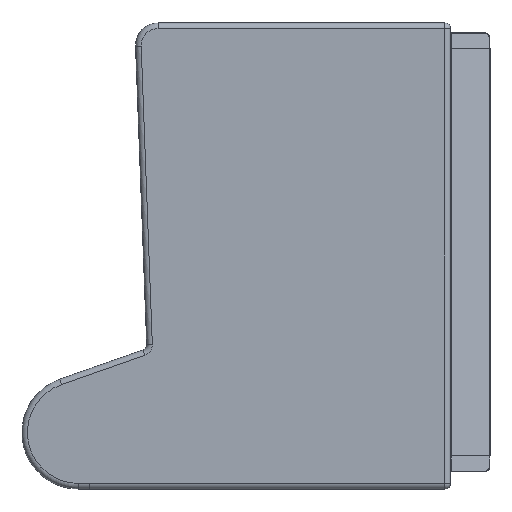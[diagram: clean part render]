
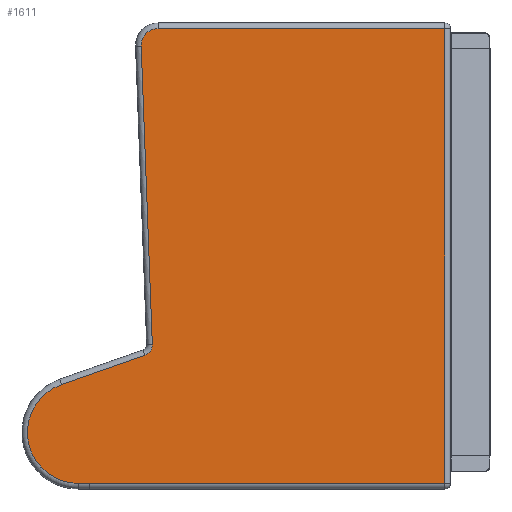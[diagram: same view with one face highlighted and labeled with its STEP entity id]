
A CAD part, left-side view. The second image highlights one B-rep face of the part: STEP entity #1611.
In plain terms, the highlighted planar face has unit normal (-1, 0, 0).
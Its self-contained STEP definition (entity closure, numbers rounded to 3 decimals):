
#43=CIRCLE('',#1761,30.);
#44=CIRCLE('',#1762,20.);
#45=CIRCLE('',#1763,90.152);
#186=FACE_OUTER_BOUND('',#299,.T.);
#299=EDGE_LOOP('',(#1129,#1130,#1131,#1132,#1133,#1134,#1135,#1136,#1137));
#433=LINE('',#2531,#584);
#434=LINE('',#2533,#585);
#435=LINE('',#2535,#586);
#436=LINE('',#2539,#587);
#437=LINE('',#2543,#588);
#438=LINE('',#2546,#589);
#584=VECTOR('',#2000,1000.);
#585=VECTOR('',#2001,1000.);
#586=VECTOR('',#2002,1000.);
#587=VECTOR('',#2005,1000.);
#588=VECTOR('',#2008,1000.);
#589=VECTOR('',#2011,1000.);
#730=VERTEX_POINT('',#2529);
#731=VERTEX_POINT('',#2530);
#732=VERTEX_POINT('',#2532);
#733=VERTEX_POINT('',#2534);
#734=VERTEX_POINT('',#2536);
#735=VERTEX_POINT('',#2538);
#736=VERTEX_POINT('',#2540);
#737=VERTEX_POINT('',#2542);
#738=VERTEX_POINT('',#2544);
#879=EDGE_CURVE('',#730,#731,#433,.T.);
#880=EDGE_CURVE('',#731,#732,#434,.T.);
#881=EDGE_CURVE('',#732,#733,#435,.T.);
#882=EDGE_CURVE('',#733,#734,#43,.T.);
#883=EDGE_CURVE('',#734,#735,#436,.T.);
#884=EDGE_CURVE('',#736,#735,#44,.T.);
#885=EDGE_CURVE('',#736,#737,#437,.T.);
#886=EDGE_CURVE('',#737,#738,#45,.T.);
#887=EDGE_CURVE('',#738,#730,#438,.T.);
#1129=ORIENTED_EDGE('',*,*,#879,.T.);
#1130=ORIENTED_EDGE('',*,*,#880,.T.);
#1131=ORIENTED_EDGE('',*,*,#881,.T.);
#1132=ORIENTED_EDGE('',*,*,#882,.T.);
#1133=ORIENTED_EDGE('',*,*,#883,.T.);
#1134=ORIENTED_EDGE('',*,*,#884,.F.);
#1135=ORIENTED_EDGE('',*,*,#885,.T.);
#1136=ORIENTED_EDGE('',*,*,#886,.T.);
#1137=ORIENTED_EDGE('',*,*,#887,.T.);
#1551=PLANE('',#1760);
#1611=ADVANCED_FACE('',(#186),#1551,.F.);
#1760=AXIS2_PLACEMENT_3D('',#2528,#1998,#1999);
#1761=AXIS2_PLACEMENT_3D('',#2537,#2003,#2004);
#1762=AXIS2_PLACEMENT_3D('',#2541,#2006,#2007);
#1763=AXIS2_PLACEMENT_3D('',#2545,#2009,#2010);
#1998=DIRECTION('center_axis',(1.,0.,0.));
#1999=DIRECTION('ref_axis',(0.,0.,-1.));
#2000=DIRECTION('',(0.,-1.,0.));
#2001=DIRECTION('',(0.,0.,1.));
#2002=DIRECTION('',(0.,1.,0.));
#2003=DIRECTION('center_axis',(-1.,0.,0.));
#2004=DIRECTION('ref_axis',(0.,0.,-1.));
#2005=DIRECTION('',(0.,-0.037,-0.999));
#2006=DIRECTION('center_axis',(-1.,0.,0.));
#2007=DIRECTION('ref_axis',(0.,0.,-1.));
#2008=DIRECTION('',(0.,0.944,-0.331));
#2009=DIRECTION('center_axis',(-1.,0.,0.));
#2010=DIRECTION('ref_axis',(0.,0.,-1.));
#2011=DIRECTION('',(0.,-1.,-0.001));
#2528=CARTESIAN_POINT('Origin',(-94.776,729.862,62.6));
#2529=CARTESIAN_POINT('',(-94.776,710.045,-27.571));
#2530=CARTESIAN_POINT('',(-94.776,80.,-27.571));
#2531=CARTESIAN_POINT('',(-94.776,70.,-27.571));
#2532=CARTESIAN_POINT('',(-94.776,80.,778.837));
#2533=CARTESIAN_POINT('',(-94.776,80.,788.837));
#2534=CARTESIAN_POINT('',(-94.776,588.423,778.837));
#2535=CARTESIAN_POINT('',(-94.776,588.423,778.837));
#2536=CARTESIAN_POINT('',(-94.776,618.402,747.718));
#2537=CARTESIAN_POINT('Origin',(-94.776,588.423,748.837));
#2538=CARTESIAN_POINT('',(-94.776,598.677,219.024));
#2539=CARTESIAN_POINT('',(-94.776,598.402,211.652));
#2540=CARTESIAN_POINT('',(-94.776,612.05,199.403));
#2541=CARTESIAN_POINT('Origin',(-94.776,618.663,218.278));
#2542=CARTESIAN_POINT('',(-94.776,759.671,147.681));
#2543=CARTESIAN_POINT('',(-94.776,759.671,147.681));
#2544=CARTESIAN_POINT('',(-94.776,730.036,-27.552));
#2545=CARTESIAN_POINT('Origin',(-94.776,729.862,62.6));
#2546=CARTESIAN_POINT('',(-94.776,710.036,-27.571));
